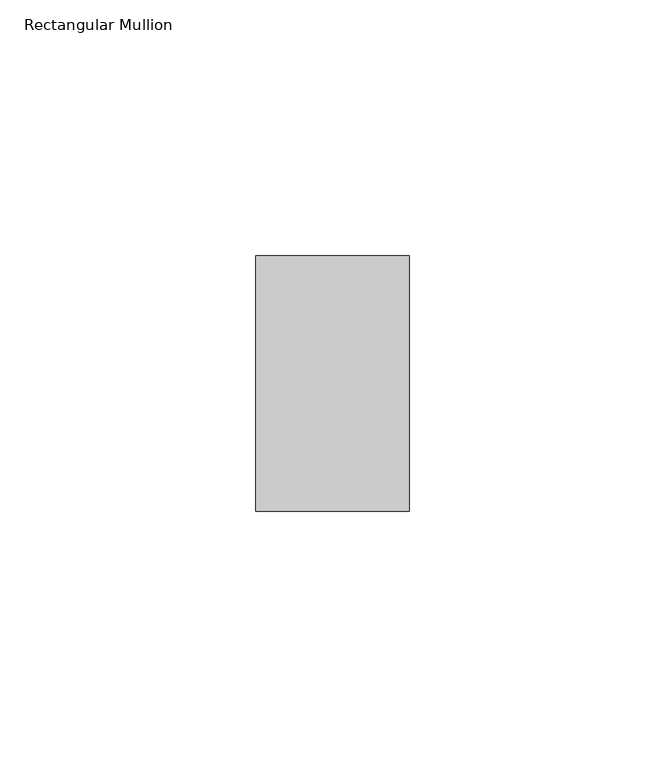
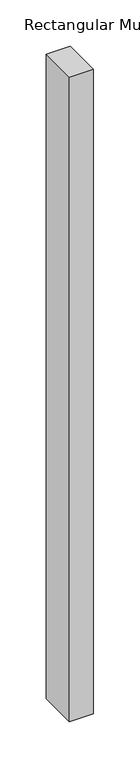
"""IFC4 building model written with IfcOpenShell, lengths in millimetres: member geometry, Rectangular Mullion : ARQ_TV_MULL_50x30mm."""

import ifcopenshell
import ifcopenshell.guid

model = None  # the IFC model being written
_history = None  # IfcOwnerHistory: only IFC2X3 demands one
_inside = {}  # id of a spatial element -> (the spatial element, [elements in it])
_under = {}  # id of a project, library or spatial element -> (it, [spatial elements below it])
_declared = {}  # id of a project -> (the project, [libraries it declares])
_typed = {}  # id of a type object -> (the type object, [elements of that type])
_made_of = {}  # id of a material, layer set ... -> (it, [elements and type objects made of it])


def new_model(schema):
    """Start an empty IFC model of exactly this schema.

    Asked for "IFC4X3", IfcOpenShell would pick the latest addendum, in which some entities
    have other attributes; the version numbers below select the first issue.
    IFC2X3 requires an IfcOwnerHistory on every rooted entity: one is made here for all.
    """
    global model, _history
    if schema == "IFC4X3":
        model = ifcopenshell.file(schema_version=(4, 3, 0, 0))
    else:
        model = ifcopenshell.file(schema=schema)
    _inside.clear()
    _under.clear()
    _declared.clear()
    _typed.clear()
    _made_of.clear()
    _history = None
    if model.schema == "IFC2X3":
        org = make("IfcOrganization", Name="unknown")
        user = make(
            "IfcPersonAndOrganization",
            ThePerson=make("IfcPerson", FamilyName="unknown"),
            TheOrganization=org,
        )
        app = make(
            "IfcApplication",
            ApplicationDeveloper=org,
            Version="unknown",
            ApplicationFullName="unknown",
            ApplicationIdentifier="unknown",
        )
        _history = make(
            "IfcOwnerHistory",
            OwningUser=user,
            OwningApplication=app,
            ChangeAction="ADDED",
            CreationDate=0,
        )
    return model


def make(cls, **values):
    """One entity of the class cls with the attributes given. An attribute that is None is left unset."""
    return model.create_entity(
        cls, **{name: value for name, value in values.items() if value is not None}
    )


def rooted(cls, **values):
    """An entity with a GlobalId (a new one), such as an element, a storey or a relation."""
    return make(cls, GlobalId=ifcopenshell.guid.new(), OwnerHistory=_history, **values)


def si_unit(unit_type, name, prefix=None):
    """IfcSIUnit, for example si_unit("LENGTHUNIT", "METRE", prefix="MILLI")."""
    return make("IfcSIUnit", UnitType=unit_type, Prefix=prefix, Name=name)


def assignment(units):
    """IfcUnitAssignment: the units of a project."""
    return None if units is None else make("IfcUnitAssignment", Units=units)


def point(xyz):
    """IfcCartesianPoint."""
    return None if xyz is None else make("IfcCartesianPoint", Coordinates=xyz)


def direction(xyz):
    """IfcDirection."""
    return None if xyz is None else make("IfcDirection", DirectionRatios=xyz)


def frame(location, z_axis=None, x_axis=None):
    """IfcAxis2Placement3D, a coordinate frame: its origin and axes. An axis left out is left unset."""
    return make(
        "IfcAxis2Placement3D",
        Location=point(location),
        Axis=direction(z_axis),
        RefDirection=direction(x_axis),
    )


def origin():
    """The frame at (0, 0, 0) with its axes left unset."""
    return frame((0.0, 0.0, 0.0))


def place(relative_to, where):
    """IfcLocalPlacement: puts the frame where relative to a parent placement (None: the world)."""
    return make(
        "IfcLocalPlacement", PlacementRelTo=relative_to, RelativePlacement=where
    )


def context(
    kind, dimensions, precision=None, world=None, true_north=None, identifier=None
):
    """IfcGeometricRepresentationContext, for example the 3D "Model" context."""
    return make(
        "IfcGeometricRepresentationContext",
        ContextIdentifier=identifier,
        ContextType=kind,
        CoordinateSpaceDimension=dimensions,
        Precision=precision,
        WorldCoordinateSystem=world,
        TrueNorth=true_north,
    )


def project(units=None, contexts=None):
    """IfcProject with its units and contexts."""
    return rooted(
        "IfcProject",
        Name="project",
        RepresentationContexts=contexts,
        UnitsInContext=assignment(units),
    )


def spatial(cls, under=None, at=None, **own):
    """A site, building, storey or space (cls), placed at a placement, below another one or the project."""
    s = rooted(cls, ObjectPlacement=at, **own)
    if under is not None:
        _under.setdefault(under.id(), (under, []))[1].append(s)
    return s


def polyline(points):
    """IfcPolyline through the points."""
    return make("IfcPolyline", Points=[point(p) for p in points])


def outline(outer, holes=None, kind="AREA"):
    """IfcArbitraryClosedProfileDef: a profile drawn as a closed curve; with holes, ...WithVoids."""
    if holes is None:
        return make("IfcArbitraryClosedProfileDef", ProfileType=kind, OuterCurve=outer)
    return make(
        "IfcArbitraryProfileDefWithVoids",
        ProfileType=kind,
        OuterCurve=outer,
        InnerCurves=holes,
    )


def extrude(swept, where, along, depth):
    """IfcExtrudedAreaSolid: the profile swept, set in the frame where, extruded along a direction by depth."""
    return make(
        "IfcExtrudedAreaSolid",
        SweptArea=swept,
        Position=where,
        ExtrudedDirection=direction(along),
        Depth=depth,
    )


def shape(context_of_items, identifier, shape_type, items):
    """IfcShapeRepresentation: the items that make up one representation, for example the "Body"."""
    return make(
        "IfcShapeRepresentation",
        ContextOfItems=context_of_items,
        RepresentationIdentifier=identifier,
        RepresentationType=shape_type,
        Items=items,
    )


def source(mapping_origin, context_of_items, identifier, shape_type, items):
    """IfcRepresentationMap: a shape defined once, which mapped items show again and again."""
    return make(
        "IfcRepresentationMap",
        MappingOrigin=mapping_origin,
        MappedRepresentation=shape(context_of_items, identifier, shape_type, items),
    )


def transform(
    local_origin,
    x_axis=None,
    y_axis=None,
    z_axis=None,
    scale=None,
    scale2=None,
    scale3=None,
    uniform=True,
):
    """IfcCartesianTransformationOperator3D, or its non-uniform kind. x_axis, y_axis, z_axis: its Axis1, 2, 3."""
    if uniform:
        return make(
            "IfcCartesianTransformationOperator3D",
            Axis1=direction(x_axis),
            Axis2=direction(y_axis),
            LocalOrigin=point(local_origin),
            Scale=scale,
            Axis3=direction(z_axis),
        )
    return make(
        "IfcCartesianTransformationOperator3DnonUniform",
        Axis1=direction(x_axis),
        Axis2=direction(y_axis),
        LocalOrigin=point(local_origin),
        Scale=scale,
        Axis3=direction(z_axis),
        Scale2=scale2,
        Scale3=scale3,
    )


def mapped(mapping_source, mapping_target):
    """IfcMappedItem: shows the shape of a source again, moved by a transform."""
    return make(
        "IfcMappedItem", MappingSource=mapping_source, MappingTarget=mapping_target
    )


def made_of(thing, what):
    """Note that an element or type object is made of a material, layer set ...; save() writes the relation."""
    if what is not None:
        _made_of.setdefault(what.id(), (what, []))[1].append(thing)
    return thing


def element(
    cls,
    number,
    at=None,
    inside=None,
    cuts=None,
    type_object=None,
    material=None,
    context=None,
    identifier="Body",
    shape_type=None,
    held_by="IfcProductDefinitionShape",
    body=None,
    shapes=None,
    **own,
):
    """One element of the class cls, such as IfcWall. Its Tag is "e" and its number.

    at: its placement. inside: the storey or other place that contains it. cuts: it is an
    opening in that element (IfcRelVoidsElement). A single representation is given by context,
    identifier, shape_type and body (its items); several are given by shapes. held_by: the class
    of the entity that holds the representations. save() writes the other relations.
    """
    e = rooted(cls, Tag="e%d" % number, ObjectPlacement=at, **own)
    if body is not None:
        shapes = [shape(context, identifier, shape_type, body)]
    if shapes is not None:
        e.Representation = make(held_by, Representations=shapes)
    if inside is not None:
        _inside.setdefault(inside.id(), (inside, []))[1].append(e)
    if cuts is not None:
        rooted(
            "IfcRelVoidsElement", RelatingBuildingElement=cuts, RelatedOpeningElement=e
        )
    if type_object is not None:
        _typed.setdefault(type_object.id(), (type_object, []))[1].append(e)
    return made_of(e, material)


def aggregate(whole, parts):
    """IfcRelAggregates: a whole, such as a stair, and the parts it consists of."""
    return rooted("IfcRelAggregates", RelatingObject=whole, RelatedObjects=parts)


def save(model, path):
    """Write the relations noted so far, then the file.

    IfcRelAggregates (storeys below a building ...), IfcRelContainedInSpatialStructure (elements
    in a storey), IfcRelDefinesByType, IfcRelAssociatesMaterial and IfcRelDeclares: one each for
    every whole, place, type object, material and project.
    """
    for whole, parts in _under.values():
        aggregate(whole, parts)
    for where, things in _inside.values():
        rooted(
            "IfcRelContainedInSpatialStructure",
            RelatedElements=things,
            RelatingStructure=where,
        )
    for kind, things in _typed.values():
        rooted("IfcRelDefinesByType", RelatedObjects=things, RelatingType=kind)
    for what, things in _made_of.values():
        rooted("IfcRelAssociatesMaterial", RelatedObjects=things, RelatingMaterial=what)
    for by, libraries in _declared.values():
        rooted("IfcRelDeclares", RelatingContext=by, RelatedDefinitions=libraries)
    model.write(path)


def rectangular_mullion_8dc43bb9(model_context):
    return source(origin(), model_context, "Body", "SweptSolid", [
        extrude(outline(polyline([(15.0, 25.0), (15.0, -25.0), (-15.0, -25.0), (-15.0, 25.0), (15.0, 25.0)])), frame((0.0, 0.0, -850.0), z_axis=(0.0, 0.0, 1.0), x_axis=(1.0, 0.0, 0.0)), (0.0, 0.0, 1.0), 850.0),
    ])


if __name__ == "__main__":
    model = new_model("IFC4")
    model_context = context("Model", 3, world=origin())
    ifc_project = project(units=[si_unit("LENGTHUNIT", "METRE", prefix="MILLI")], contexts=[model_context])
    site = spatial("IfcSite", under=ifc_project)
    building = spatial("IfcBuilding", under=site)
    placement = place(None, origin())
    rectangular_mullion_shape = rectangular_mullion_8dc43bb9(model_context)
    element("IfcMember", 1, ObjectType="Rectangular Mullion : ARQ_TV_MULL_50x30mm", at=placement, inside=building, context=model_context, shape_type="MappedRepresentation", body=[
        mapped(rectangular_mullion_shape, transform((0.0, 0.0, 0.0), x_axis=(1.0, 0.0, 0.0), y_axis=(0.0, 1.0, 0.0), z_axis=(0.0, 0.0, 1.0))),
    ])
    save(model, "model.ifc")
